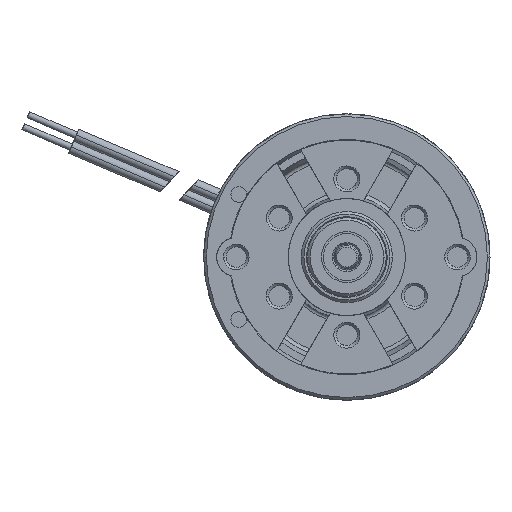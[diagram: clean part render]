
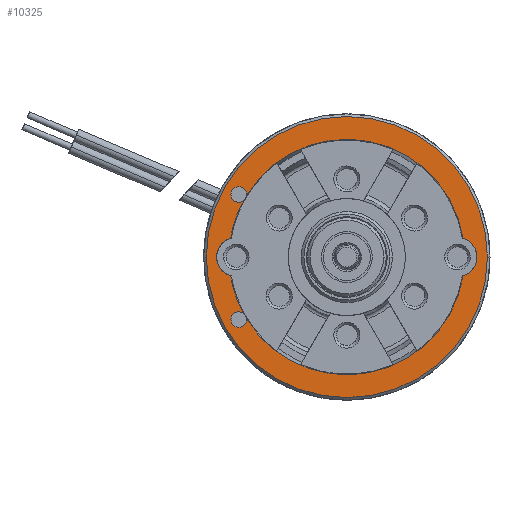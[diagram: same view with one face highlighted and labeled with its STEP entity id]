
A CAD part, left-side view. The second image highlights one B-rep face of the part: STEP entity #10325.
In plain terms, the highlighted planar face has unit normal (-1, 0, 0).
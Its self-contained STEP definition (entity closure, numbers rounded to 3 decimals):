
#2678=CARTESIAN_POINT('',(-29.2,0.,0.));
#2679=DIRECTION('',(-1.,0.,0.));
#2680=DIRECTION('',(0.,1.,0.));
#2681=AXIS2_PLACEMENT_3D('',#2678,#2679,#2680);
#2686=CARTESIAN_POINT('',(-29.2,0.,0.));
#2687=DIRECTION('',(-1.,0.,0.));
#2688=DIRECTION('',(0.,-1.,0.));
#2689=AXIS2_PLACEMENT_3D('',#2686,#2687,#2688);
#2694=CARTESIAN_POINT('',(-29.2,8.31,-4.8));
#2695=DIRECTION('',(-1.,0.,0.));
#2696=DIRECTION('',(0.,1.,0.));
#2697=AXIS2_PLACEMENT_3D('',#2694,#2695,#2696);
#2702=CARTESIAN_POINT('',(-29.2,8.31,-4.8));
#2703=DIRECTION('',(-1.,0.,0.));
#2704=DIRECTION('',(0.,-1.,0.));
#2705=AXIS2_PLACEMENT_3D('',#2702,#2703,#2704);
#2710=CARTESIAN_POINT('',(-29.2,0.,0.));
#2711=DIRECTION('',(1.,0.,0.));
#2712=DIRECTION('',(0.,-0.987,-0.159));
#2713=AXIS2_PLACEMENT_3D('',#2710,#2711,#2712);
#2718=CARTESIAN_POINT('',(-29.2,-8.5,0.));
#2719=DIRECTION('',(-1.,0.,0.));
#2720=DIRECTION('',(0.,-0.29,-0.957));
#2721=AXIS2_PLACEMENT_3D('',#2718,#2719,#2720);
#2726=CARTESIAN_POINT('',(-29.2,0.,0.));
#2727=DIRECTION('',(1.,0.,0.));
#2728=DIRECTION('',(0.,0.852,0.523));
#2729=AXIS2_PLACEMENT_3D('',#2726,#2727,#2728);
#2734=CARTESIAN_POINT('',(-29.2,8.31,4.8));
#2735=DIRECTION('',(1.,0.,0.));
#2736=DIRECTION('',(0.,-1.,0.));
#2737=AXIS2_PLACEMENT_3D('',#2734,#2735,#2736);
#2742=CARTESIAN_POINT('',(-29.2,8.31,4.8));
#2743=DIRECTION('',(1.,0.,0.));
#2744=DIRECTION('',(0.,1.,0.));
#2745=AXIS2_PLACEMENT_3D('',#2742,#2743,#2744);
#2750=CARTESIAN_POINT('',(-29.2,8.31,4.8));
#2751=DIRECTION('',(1.,0.,0.));
#2752=DIRECTION('',(0.,-0.593,-0.805));
#2753=AXIS2_PLACEMENT_3D('',#2750,#2751,#2752);
#2758=CARTESIAN_POINT('',(-29.2,0.,0.));
#2759=DIRECTION('',(1.,0.,0.));
#2760=DIRECTION('',(0.,0.987,0.159));
#2761=AXIS2_PLACEMENT_3D('',#2758,#2759,#2760);
#2766=CARTESIAN_POINT('',(-29.2,8.5,0.));
#2767=DIRECTION('',(-1.,0.,0.));
#2768=DIRECTION('',(0.,0.29,0.957));
#2769=AXIS2_PLACEMENT_3D('',#2766,#2767,#2768);
#2774=CARTESIAN_POINT('',(-29.2,0.,0.));
#2775=DIRECTION('',(1.,0.,0.));
#2776=DIRECTION('',(0.,0.879,-0.477));
#2777=AXIS2_PLACEMENT_3D('',#2774,#2775,#2776);
#2782=CARTESIAN_POINT('',(-29.2,8.31,-4.8));
#2783=DIRECTION('',(-1.,0.,0.));
#2784=DIRECTION('',(0.,-0.593,0.805));
#2785=AXIS2_PLACEMENT_3D('',#2782,#2783,#2784);
#7851=CARTESIAN_POINT('',(-29.2,8.91,4.8));
#7852=CARTESIAN_POINT('',(-29.2,7.71,4.8));
#7853=VERTEX_POINT('',#7851);
#7854=VERTEX_POINT('',#7852);
#7855=CARTESIAN_POINT('',(-29.2,7.714,4.733));
#7856=VERTEX_POINT('',#7855);
#7861=CARTESIAN_POINT('',(-29.2,8.91,-4.8));
#7862=VERTEX_POINT('',#7861);
#7863=CARTESIAN_POINT('',(-29.2,7.71,-4.8));
#7864=VERTEX_POINT('',#7863);
#7865=CARTESIAN_POINT('',(-29.2,7.714,-4.733));
#7866=VERTEX_POINT('',#7865);
#7907=CARTESIAN_POINT('',(-29.2,7.954,4.317));
#7908=VERTEX_POINT('',#7907);
#7909=CARTESIAN_POINT('',(-29.2,7.954,-4.317));
#7910=VERTEX_POINT('',#7909);
#7911=CARTESIAN_POINT('',(-29.2,-8.935,-1.435));
#7912=CARTESIAN_POINT('',(-29.2,-8.935,1.435));
#7913=VERTEX_POINT('',#7911);
#7914=VERTEX_POINT('',#7912);
#7915=CARTESIAN_POINT('',(-29.2,8.935,1.435));
#7916=CARTESIAN_POINT('',(-29.2,8.935,-1.435));
#7917=VERTEX_POINT('',#7915);
#7918=VERTEX_POINT('',#7916);
#7957=CARTESIAN_POINT('',(-29.2,10.8,0.));
#7958=CARTESIAN_POINT('',(-29.2,-10.8,0.));
#7959=VERTEX_POINT('',#7957);
#7960=VERTEX_POINT('',#7958);
#10289=CARTESIAN_POINT('',(-29.2,0.,0.));
#10290=DIRECTION('',(-1.,0.,0.));
#10291=DIRECTION('',(0.,1.,0.));
#10292=AXIS2_PLACEMENT_3D('',#10289,#10290,#10291);
#10293=PLANE('',#10292);
#10295=ORIENTED_EDGE('',*,*,#10294,.F.);
#10296=ORIENTED_EDGE('',*,*,#10272,.F.);
#10297=EDGE_LOOP('',(#10295,#10296));
#10298=FACE_OUTER_BOUND('',#10297,.F.);
#10300=ORIENTED_EDGE('',*,*,#10299,.T.);
#10302=ORIENTED_EDGE('',*,*,#10301,.T.);
#10304=ORIENTED_EDGE('',*,*,#10303,.F.);
#10306=ORIENTED_EDGE('',*,*,#10305,.T.);
#10308=ORIENTED_EDGE('',*,*,#10307,.F.);
#10310=ORIENTED_EDGE('',*,*,#10309,.F.);
#10312=ORIENTED_EDGE('',*,*,#10311,.F.);
#10314=ORIENTED_EDGE('',*,*,#10313,.F.);
#10316=ORIENTED_EDGE('',*,*,#10315,.F.);
#10318=ORIENTED_EDGE('',*,*,#10317,.T.);
#10320=ORIENTED_EDGE('',*,*,#10319,.F.);
#10322=ORIENTED_EDGE('',*,*,#10321,.T.);
#10323=EDGE_LOOP('',(#10300,#10302,#10304,#10306,#10308,#10310,#10312,#10314,
#10316,#10318,#10320,#10322));
#10324=FACE_BOUND('',#10323,.F.);
#10325=ADVANCED_FACE('',(#10298,#10324),#10293,.T.);
#2682=CIRCLE('',#2681,10.8);
#2690=CIRCLE('',#2689,10.8);
#2698=CIRCLE('',#2697,0.6);
#2706=CIRCLE('',#2705,0.6);
#2714=CIRCLE('',#2713,9.05);
#2722=CIRCLE('',#2721,1.5);
#2730=CIRCLE('',#2729,9.05);
#2738=CIRCLE('',#2737,0.6);
#2746=CIRCLE('',#2745,0.6);
#2754=CIRCLE('',#2753,0.6);
#2762=CIRCLE('',#2761,9.05);
#2770=CIRCLE('',#2769,1.5);
#2778=CIRCLE('',#2777,9.05);
#2786=CIRCLE('',#2785,0.6);
#10272=EDGE_CURVE('',#7960,#7959,#2690,.T.);
#10294=EDGE_CURVE('',#7959,#7960,#2682,.T.);
#10299=EDGE_CURVE('',#7862,#7864,#2698,.T.);
#10301=EDGE_CURVE('',#7864,#7866,#2706,.T.);
#10303=EDGE_CURVE('',#7913,#7866,#2714,.T.);
#10305=EDGE_CURVE('',#7913,#7914,#2722,.T.);
#10307=EDGE_CURVE('',#7856,#7914,#2730,.T.);
#10309=EDGE_CURVE('',#7854,#7856,#2738,.T.);
#10311=EDGE_CURVE('',#7853,#7854,#2746,.T.);
#10313=EDGE_CURVE('',#7908,#7853,#2754,.T.);
#10315=EDGE_CURVE('',#7917,#7908,#2762,.T.);
#10317=EDGE_CURVE('',#7917,#7918,#2770,.T.);
#10319=EDGE_CURVE('',#7910,#7918,#2778,.T.);
#10321=EDGE_CURVE('',#7910,#7862,#2786,.T.);
